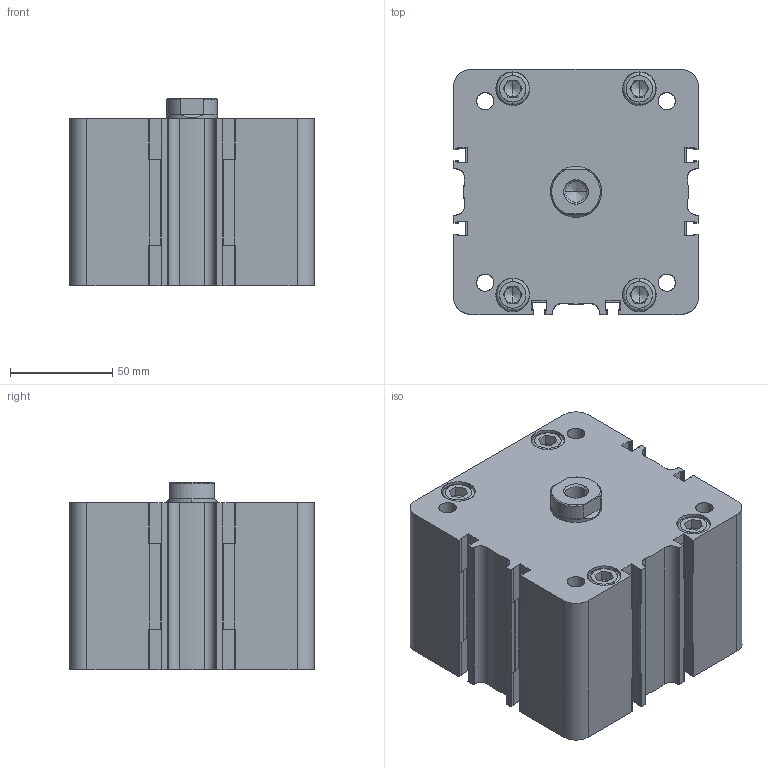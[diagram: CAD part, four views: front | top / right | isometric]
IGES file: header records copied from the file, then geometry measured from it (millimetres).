
Start section: SolidWorks IGES file using analytic representation for surfaces
Global section: file name: K:\Disegni Esecutivi\Cilindri\2_DISEGNI_cilindri_in_produzione\CILINDRO_ISO_21287\seconda versione cilindro 21287\2_CIL100\complessivi W100\W100_PIENI\WF100\WF1000015A.igs; native system: SolidWorks 2011; preprocessor: SolidWorks 2011; author: Cad01; date: 120803.172652; units: millimetre
Bounding box: 120 x 120 x 92 mm (x, y, z)
Surface area: 94817.4 mm2 (no closed solid volume)
Topology: 0 solids, 0 shells, 552 faces, 5789 edges, 5771 vertices
Faces by surface type: bspline 297, revolution 255
